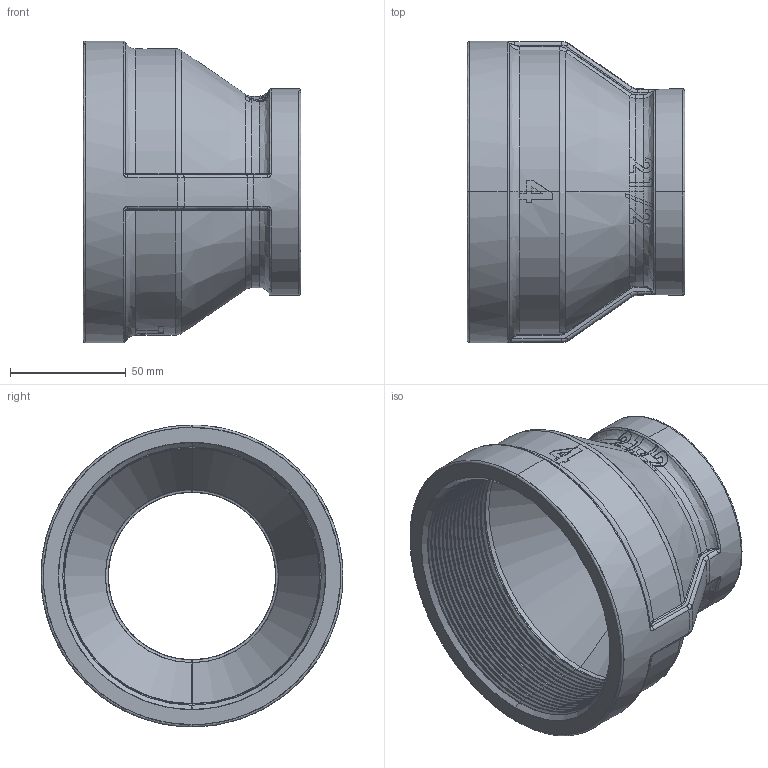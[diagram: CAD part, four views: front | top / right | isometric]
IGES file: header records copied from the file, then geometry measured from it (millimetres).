
Start section: SolidWorks IGES file using analytic representation for surfaces
Global section: file name: C:\Users\Joel Rosa\Desktop\Tubulação\12-32-OK\12-32-059.IGS; native system: SolidWorks 2011; preprocessor: SolidWorks 2011; author: Joel Rosa; date: 121209.022848; units: millimetre
Bounding box: 94 x 130.2 x 130.2 mm (x, y, z)
Surface area: 83434.6 mm2 (no closed solid volume)
Topology: 0 solids, 0 shells, 538 faces, 4615 edges, 4615 vertices
Faces by surface type: bspline 370, revolution 168
